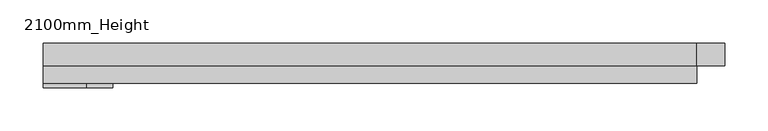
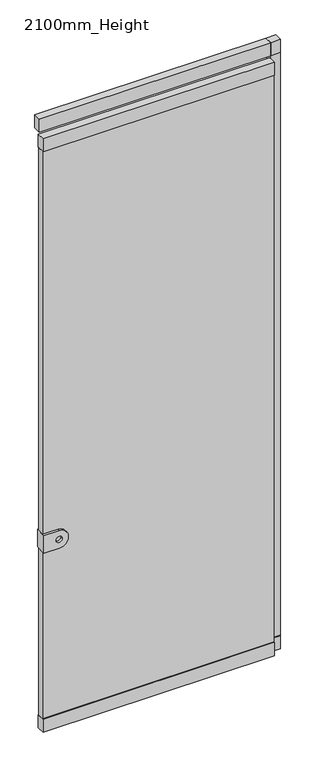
"""IFC4 building model written with IfcOpenShell, lengths in millimetres: flow terminal geometry, Plumbing_Fixtures_Toilet_Cubicle_End_Adjacent_Wall : 2100mm_Height."""

from ifc_helpers import new_model, si_unit, point, frame, frame_2d, origin, place, context, project, spatial, polyline, circle_curve, trimmed, segment, composite_curve, outline, extrude, source, transform, mapped, element, save


def flow_terminal_2100mm_height_2c32aa6e(model_context):
    return source(origin(), model_context, "Body", "SweptSolid", [
        extrude(outline(composite_curve([segment(trimmed(circle_curve(frame_2d((800.0, -339.6209866)), 30.0913679), [point((769.9086321, -339.6209866))], [point((830.0913679, -339.6209866))], False, "CARTESIAN"), True, "CONTINUOUS"), segment(polyline([(830.0913679, -339.6209866), (830.0913679, -389.5689294), (769.9086321, -389.5689294), (769.9086321, -339.6209866)]), True, "CONTINUOUS")], self_intersect=False), holes=[composite_curve([segment(trimmed(circle_curve(frame_2d((800.0, -339.6209866)), 10.0), [point((800.0, -329.6209866))], [point((800.0, -349.6209866))], True, "CARTESIAN"), True, "CONTINUOUS"), segment(trimmed(circle_curve(frame_2d((800.0, -339.6209866)), 10.0), [point((800.0, -349.6209866))], [point((800.0, -329.6209866))], True, "CARTESIAN"), True, "CONTINUOUS")], self_intersect=False)]), frame((0.0, 1762.0, 0.0), z_axis=(0.0, 1.0, 0.0), x_axis=(0.0, 0.0, 1.0)), (0.0, 0.0, 1.0), 36.0),
        extrude(outline(polyline([(365.4310706, 1790.0), (365.4310706, 1770.0), (-389.5689294, 1770.0), (-389.5689294, 1790.0), (365.4310706, 1790.0)])), frame((0.0, 0.0, 195.0), z_axis=(0.0, 0.0, 1.0), x_axis=(1.0, 0.0, 0.0)), (0.0, 0.0, 1.0), 1955.0),
        extrude(outline(polyline([(365.4310706, 1767.0), (-389.5689294, 1767.0), (-389.5689294, 1793.0), (365.4310706, 1793.0), (365.4310706, 1767.0)])), frame((0.0, 0.0, 2150.0), z_axis=(0.0, 0.0, 1.0), x_axis=(1.0, 0.0, 0.0)), (0.0, 0.0, 1.0), 45.0),
        extrude(outline(polyline([(365.4310706, 1767.0), (-389.5689294, 1767.0), (-389.5689294, 1793.0), (365.4310706, 1793.0), (365.4310706, 1767.0)])), frame((0.0, 0.0, 150.0), z_axis=(0.0, 0.0, 1.0), x_axis=(1.0, 0.0, 0.0)), (0.0, 0.0, 1.0), 45.0),
        extrude(outline(polyline([(365.4310706, 1813.0), (397.9310706, 1813.0), (397.9310706, 1787.2947936), (365.4310706, 1787.2947936), (365.4310706, 1813.0)])), frame((0.0, 0.0, 2205.0), z_axis=(0.0, 0.0, 1.0), x_axis=(1.0, 0.0, 0.0)), (0.0, 0.0, 1.0), 45.0),
        extrude(outline(polyline([(365.4310706, 1813.0), (397.9310706, 1813.0), (397.9310706, 1787.2947936), (365.4310706, 1787.2947936), (365.4310706, 1813.0)])), frame((0.0, 0.0, 150.0), z_axis=(0.0, 0.0, 1.0), x_axis=(1.0, 0.0, 0.0)), (0.0, 0.0, 1.0), 45.0),
        extrude(outline(polyline([(365.4310706, 1813.0), (365.4310706, 1787.2947936), (-389.5689294, 1787.2947936), (-389.5689294, 1813.0), (365.4310706, 1813.0)])), frame((0.0, 0.0, 2205.0), z_axis=(0.0, 0.0, 1.0), x_axis=(1.0, 0.0, 0.0)), (0.0, 0.0, 1.0), 45.0),
        extrude(outline(polyline([(365.4310706, 1810.0), (397.9310706, 1810.0), (397.9310706, 1790.0), (365.4310706, 1790.0), (365.4310706, 1810.0)])), frame((0.0, 0.0, 195.0), z_axis=(0.0, 0.0, 1.0), x_axis=(1.0, 0.0, 0.0)), (0.0, 0.0, 1.0), 2010.0),
    ])


if __name__ == "__main__":
    model = new_model("IFC4")
    model_context = context("Model", 3, world=origin())
    ifc_project = project(units=[si_unit("LENGTHUNIT", "METRE", prefix="MILLI")], contexts=[model_context])
    site = spatial("IfcSite", under=ifc_project)
    building = spatial("IfcBuilding", under=site)
    placement = place(None, origin())
    flow_terminal_2100mm_height_shape = flow_terminal_2100mm_height_2c32aa6e(model_context)
    element("IfcFlowTerminal", 1, ObjectType="Plumbing_Fixtures_Toilet_Cubicle_End_Adjacent_Wall : 2100mm_Height", at=placement, inside=building, context=model_context, shape_type="MappedRepresentation", body=[
        mapped(flow_terminal_2100mm_height_shape, transform((0.0, 0.0, 0.0), x_axis=(1.0, 0.0, 0.0), y_axis=(0.0, 1.0, 0.0), z_axis=(0.0, 0.0, 1.0))),
    ])
    save(model, "model.ifc")
